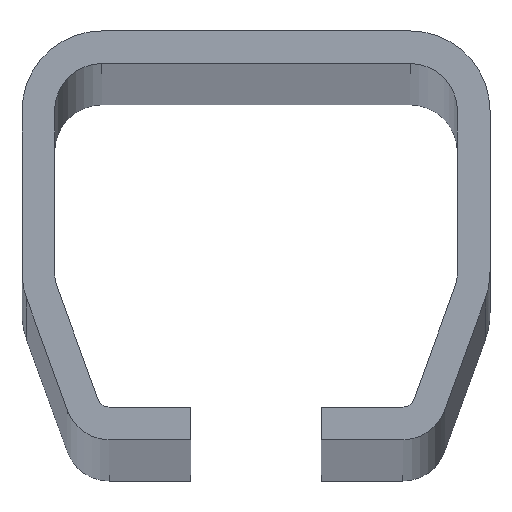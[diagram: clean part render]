
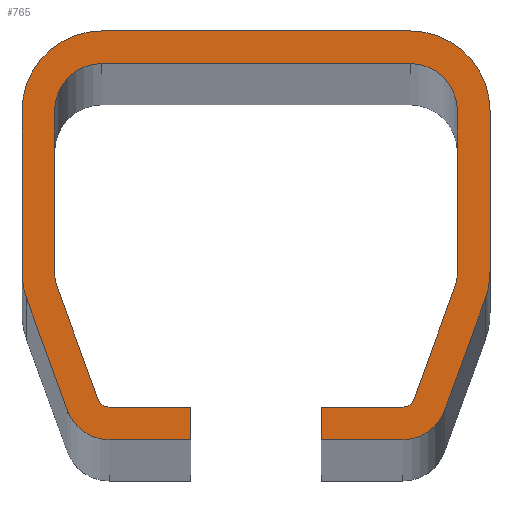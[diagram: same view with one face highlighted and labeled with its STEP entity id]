
A CAD part, top view. The second image highlights one B-rep face of the part: STEP entity #765.
In plain terms, the highlighted planar face has unit normal (0, 0, 1).
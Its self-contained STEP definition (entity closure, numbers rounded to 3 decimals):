
#17=CIRCLE('',#786,3.75);
#19=CIRCLE('',#790,6.75);
#21=CIRCLE('',#794,6.75);
#23=CIRCLE('',#798,6.75);
#25=CIRCLE('',#802,6.75);
#27=CIRCLE('',#806,3.75);
#29=CIRCLE('',#812,1.);
#31=CIRCLE('',#816,4.);
#33=CIRCLE('',#820,4.);
#35=CIRCLE('',#824,4.);
#37=CIRCLE('',#828,4.);
#39=CIRCLE('',#832,1.);
#91=FACE_OUTER_BOUND('',#133,.T.);
#133=EDGE_LOOP('',(#643,#644,#645,#646,#647,#648,#649,#650,#651,#652,#653,
#654,#655,#656,#657,#658,#659,#660,#661,#662,#663,#664,#665,#666,#667,#668,
#669,#670));
#161=LINE('',#1115,#245);
#165=LINE('',#1127,#249);
#169=LINE('',#1139,#253);
#173=LINE('',#1151,#257);
#177=LINE('',#1163,#261);
#181=LINE('',#1175,#265);
#184=LINE('',#1181,#268);
#187=LINE('',#1187,#271);
#191=LINE('',#1199,#275);
#195=LINE('',#1211,#279);
#199=LINE('',#1223,#283);
#203=LINE('',#1235,#287);
#207=LINE('',#1247,#291);
#211=LINE('',#1259,#295);
#214=LINE('',#1265,#298);
#217=LINE('',#1270,#301);
#245=VECTOR('',#895,10.);
#249=VECTOR('',#907,10.);
#253=VECTOR('',#919,10.);
#257=VECTOR('',#931,10.);
#261=VECTOR('',#943,10.);
#265=VECTOR('',#955,10.);
#268=VECTOR('',#960,10.);
#271=VECTOR('',#965,10.);
#275=VECTOR('',#977,10.);
#279=VECTOR('',#989,10.);
#283=VECTOR('',#1001,10.);
#287=VECTOR('',#1013,10.);
#291=VECTOR('',#1025,10.);
#295=VECTOR('',#1037,10.);
#298=VECTOR('',#1042,10.);
#301=VECTOR('',#1047,10.);
#319=VERTEX_POINT('',#1105);
#320=VERTEX_POINT('',#1106);
#323=VERTEX_POINT('',#1114);
#325=VERTEX_POINT('',#1120);
#327=VERTEX_POINT('',#1126);
#329=VERTEX_POINT('',#1132);
#331=VERTEX_POINT('',#1138);
#333=VERTEX_POINT('',#1144);
#335=VERTEX_POINT('',#1150);
#337=VERTEX_POINT('',#1156);
#339=VERTEX_POINT('',#1162);
#341=VERTEX_POINT('',#1168);
#343=VERTEX_POINT('',#1174);
#345=VERTEX_POINT('',#1180);
#347=VERTEX_POINT('',#1186);
#349=VERTEX_POINT('',#1192);
#351=VERTEX_POINT('',#1198);
#353=VERTEX_POINT('',#1204);
#355=VERTEX_POINT('',#1210);
#357=VERTEX_POINT('',#1216);
#359=VERTEX_POINT('',#1222);
#361=VERTEX_POINT('',#1228);
#363=VERTEX_POINT('',#1234);
#365=VERTEX_POINT('',#1240);
#367=VERTEX_POINT('',#1246);
#369=VERTEX_POINT('',#1252);
#371=VERTEX_POINT('',#1258);
#373=VERTEX_POINT('',#1264);
#399=EDGE_CURVE('',#319,#320,#17,.T.);
#403=EDGE_CURVE('',#320,#323,#161,.T.);
#406=EDGE_CURVE('',#323,#325,#19,.T.);
#409=EDGE_CURVE('',#325,#327,#165,.T.);
#412=EDGE_CURVE('',#327,#329,#21,.T.);
#415=EDGE_CURVE('',#329,#331,#169,.T.);
#418=EDGE_CURVE('',#331,#333,#23,.T.);
#421=EDGE_CURVE('',#333,#335,#173,.T.);
#424=EDGE_CURVE('',#335,#337,#25,.T.);
#427=EDGE_CURVE('',#337,#339,#177,.T.);
#430=EDGE_CURVE('',#339,#341,#27,.T.);
#433=EDGE_CURVE('',#341,#343,#181,.T.);
#436=EDGE_CURVE('',#343,#345,#184,.T.);
#439=EDGE_CURVE('',#345,#347,#187,.T.);
#442=EDGE_CURVE('',#347,#349,#29,.T.);
#445=EDGE_CURVE('',#349,#351,#191,.T.);
#448=EDGE_CURVE('',#351,#353,#31,.T.);
#451=EDGE_CURVE('',#353,#355,#195,.T.);
#454=EDGE_CURVE('',#355,#357,#33,.T.);
#457=EDGE_CURVE('',#357,#359,#199,.T.);
#460=EDGE_CURVE('',#359,#361,#35,.T.);
#463=EDGE_CURVE('',#361,#363,#203,.T.);
#466=EDGE_CURVE('',#363,#365,#37,.T.);
#469=EDGE_CURVE('',#365,#367,#207,.T.);
#472=EDGE_CURVE('',#367,#369,#39,.T.);
#475=EDGE_CURVE('',#369,#371,#211,.T.);
#478=EDGE_CURVE('',#371,#373,#214,.T.);
#481=EDGE_CURVE('',#373,#319,#217,.T.);
#643=ORIENTED_EDGE('',*,*,#399,.F.);
#644=ORIENTED_EDGE('',*,*,#481,.F.);
#645=ORIENTED_EDGE('',*,*,#478,.F.);
#646=ORIENTED_EDGE('',*,*,#475,.F.);
#647=ORIENTED_EDGE('',*,*,#472,.F.);
#648=ORIENTED_EDGE('',*,*,#469,.F.);
#649=ORIENTED_EDGE('',*,*,#466,.F.);
#650=ORIENTED_EDGE('',*,*,#463,.F.);
#651=ORIENTED_EDGE('',*,*,#460,.F.);
#652=ORIENTED_EDGE('',*,*,#457,.F.);
#653=ORIENTED_EDGE('',*,*,#454,.F.);
#654=ORIENTED_EDGE('',*,*,#451,.F.);
#655=ORIENTED_EDGE('',*,*,#448,.F.);
#656=ORIENTED_EDGE('',*,*,#445,.F.);
#657=ORIENTED_EDGE('',*,*,#442,.F.);
#658=ORIENTED_EDGE('',*,*,#439,.F.);
#659=ORIENTED_EDGE('',*,*,#436,.F.);
#660=ORIENTED_EDGE('',*,*,#433,.F.);
#661=ORIENTED_EDGE('',*,*,#430,.F.);
#662=ORIENTED_EDGE('',*,*,#427,.F.);
#663=ORIENTED_EDGE('',*,*,#424,.F.);
#664=ORIENTED_EDGE('',*,*,#421,.F.);
#665=ORIENTED_EDGE('',*,*,#418,.F.);
#666=ORIENTED_EDGE('',*,*,#415,.F.);
#667=ORIENTED_EDGE('',*,*,#412,.F.);
#668=ORIENTED_EDGE('',*,*,#409,.F.);
#669=ORIENTED_EDGE('',*,*,#406,.F.);
#670=ORIENTED_EDGE('',*,*,#403,.F.);
#725=PLANE('',#837);
#765=ADVANCED_FACE('',(#91),#725,.T.);
#786=AXIS2_PLACEMENT_3D('',#1107,#887,#888);
#790=AXIS2_PLACEMENT_3D('',#1121,#900,#901);
#794=AXIS2_PLACEMENT_3D('',#1133,#912,#913);
#798=AXIS2_PLACEMENT_3D('',#1145,#924,#925);
#802=AXIS2_PLACEMENT_3D('',#1157,#936,#937);
#806=AXIS2_PLACEMENT_3D('',#1169,#948,#949);
#812=AXIS2_PLACEMENT_3D('',#1193,#970,#971);
#816=AXIS2_PLACEMENT_3D('',#1205,#982,#983);
#820=AXIS2_PLACEMENT_3D('',#1217,#994,#995);
#824=AXIS2_PLACEMENT_3D('',#1229,#1006,#1007);
#828=AXIS2_PLACEMENT_3D('',#1241,#1018,#1019);
#832=AXIS2_PLACEMENT_3D('',#1253,#1030,#1031);
#837=AXIS2_PLACEMENT_3D('',#1272,#1049,#1050);
#887=DIRECTION('center_axis',(0.,0.,-1.));
#888=DIRECTION('ref_axis',(0.94,0.342,0.));
#895=DIRECTION('',(-0.342,0.94,0.));
#900=DIRECTION('center_axis',(0.,0.,-1.));
#901=DIRECTION('ref_axis',(1.,0.,0.));
#907=DIRECTION('',(0.,1.,0.));
#912=DIRECTION('center_axis',(0.,0.,-1.));
#913=DIRECTION('ref_axis',(0.,-1.,0.));
#919=DIRECTION('',(1.,0.,0.));
#924=DIRECTION('center_axis',(0.,0.,-1.));
#925=DIRECTION('ref_axis',(-1.,0.,0.));
#931=DIRECTION('',(0.,-1.,0.));
#936=DIRECTION('center_axis',(0.,0.,-1.));
#937=DIRECTION('ref_axis',(-0.94,0.342,0.));
#943=DIRECTION('',(-0.342,-0.94,0.));
#948=DIRECTION('center_axis',(0.,0.,-1.));
#949=DIRECTION('ref_axis',(0.,1.,0.));
#955=DIRECTION('',(-1.,0.,0.));
#960=DIRECTION('',(0.,1.,0.));
#965=DIRECTION('',(1.,0.,0.));
#970=DIRECTION('center_axis',(0.,0.,1.));
#971=DIRECTION('ref_axis',(0.,-1.,0.));
#977=DIRECTION('',(0.342,0.94,0.));
#982=DIRECTION('center_axis',(0.,0.,1.));
#983=DIRECTION('ref_axis',(0.94,-0.342,0.));
#989=DIRECTION('',(0.,1.,0.));
#994=DIRECTION('center_axis',(0.,0.,1.));
#995=DIRECTION('ref_axis',(1.,0.,0.));
#1001=DIRECTION('',(-1.,0.,0.));
#1006=DIRECTION('center_axis',(0.,0.,1.));
#1007=DIRECTION('ref_axis',(0.,1.,0.));
#1013=DIRECTION('',(0.,-1.,0.));
#1018=DIRECTION('center_axis',(0.,0.,1.));
#1019=DIRECTION('ref_axis',(-1.,0.,0.));
#1025=DIRECTION('',(0.342,-0.94,0.));
#1030=DIRECTION('center_axis',(0.,0.,1.));
#1031=DIRECTION('ref_axis',(-0.94,-0.342,0.));
#1037=DIRECTION('',(1.,0.,0.));
#1042=DIRECTION('',(0.,-1.,0.));
#1047=DIRECTION('',(-1.,0.,0.));
#1049=DIRECTION('center_axis',(0.,0.,1.));
#1050=DIRECTION('ref_axis',(1.,0.,0.));
#1105=CARTESIAN_POINT('',(-12.393,-2.75,2000.));
#1106=CARTESIAN_POINT('',(-15.916,-0.283,2000.));
#1107=CARTESIAN_POINT('Origin',(-12.393,1.,2000.));
#1114=CARTESIAN_POINT('',(-19.343,9.132,2000.));
#1115=CARTESIAN_POINT('',(-15.916,-0.283,2000.));
#1120=CARTESIAN_POINT('',(-19.75,11.44,2000.));
#1121=CARTESIAN_POINT('Origin',(-13.,11.44,2000.));
#1126=CARTESIAN_POINT('',(-19.75,25.,2000.));
#1127=CARTESIAN_POINT('',(-19.75,11.44,2000.));
#1132=CARTESIAN_POINT('',(-13.,31.75,2000.));
#1133=CARTESIAN_POINT('Origin',(-13.,25.,2000.));
#1138=CARTESIAN_POINT('',(13.,31.75,2000.));
#1139=CARTESIAN_POINT('',(-13.,31.75,2000.));
#1144=CARTESIAN_POINT('',(19.75,25.,2000.));
#1145=CARTESIAN_POINT('Origin',(13.,25.,2000.));
#1150=CARTESIAN_POINT('',(19.75,11.44,2000.));
#1151=CARTESIAN_POINT('',(19.75,25.,2000.));
#1156=CARTESIAN_POINT('',(19.343,9.132,2000.));
#1157=CARTESIAN_POINT('Origin',(13.,11.44,2000.));
#1162=CARTESIAN_POINT('',(15.916,-0.283,2000.));
#1163=CARTESIAN_POINT('',(19.343,9.132,2000.));
#1168=CARTESIAN_POINT('',(12.393,-2.75,2000.));
#1169=CARTESIAN_POINT('Origin',(12.393,1.,2000.));
#1174=CARTESIAN_POINT('',(5.5,-2.75,2000.));
#1175=CARTESIAN_POINT('',(12.393,-2.75,2000.));
#1180=CARTESIAN_POINT('',(5.5,0.,2000.));
#1181=CARTESIAN_POINT('',(5.5,-2.75,2000.));
#1186=CARTESIAN_POINT('',(12.393,0.,2000.));
#1187=CARTESIAN_POINT('',(5.5,0.,2000.));
#1192=CARTESIAN_POINT('',(13.332,0.658,2000.));
#1193=CARTESIAN_POINT('Origin',(12.393,1.,2000.));
#1198=CARTESIAN_POINT('',(16.759,10.072,2000.));
#1199=CARTESIAN_POINT('',(13.332,0.658,2000.));
#1204=CARTESIAN_POINT('',(17.,11.44,2000.));
#1205=CARTESIAN_POINT('Origin',(13.,11.44,2000.));
#1210=CARTESIAN_POINT('',(17.,25.,2000.));
#1211=CARTESIAN_POINT('',(17.,11.44,2000.));
#1216=CARTESIAN_POINT('',(13.,29.,2000.));
#1217=CARTESIAN_POINT('Origin',(13.,25.,2000.));
#1222=CARTESIAN_POINT('',(-13.,29.,2000.));
#1223=CARTESIAN_POINT('',(13.,29.,2000.));
#1228=CARTESIAN_POINT('',(-17.,25.,2000.));
#1229=CARTESIAN_POINT('Origin',(-13.,25.,2000.));
#1234=CARTESIAN_POINT('',(-17.,11.44,2000.));
#1235=CARTESIAN_POINT('',(-17.,25.,2000.));
#1240=CARTESIAN_POINT('',(-16.759,10.072,2000.));
#1241=CARTESIAN_POINT('Origin',(-13.,11.44,2000.));
#1246=CARTESIAN_POINT('',(-13.332,0.658,2000.));
#1247=CARTESIAN_POINT('',(-16.759,10.072,2000.));
#1252=CARTESIAN_POINT('',(-12.393,0.,2000.));
#1253=CARTESIAN_POINT('Origin',(-12.393,1.,2000.));
#1258=CARTESIAN_POINT('',(-5.5,0.,2000.));
#1259=CARTESIAN_POINT('',(-12.393,0.,2000.));
#1264=CARTESIAN_POINT('',(-5.5,-2.75,2000.));
#1265=CARTESIAN_POINT('',(-5.5,0.,2000.));
#1270=CARTESIAN_POINT('',(-5.5,-2.75,2000.));
#1272=CARTESIAN_POINT('Origin',(0.,16.125,2000.));
